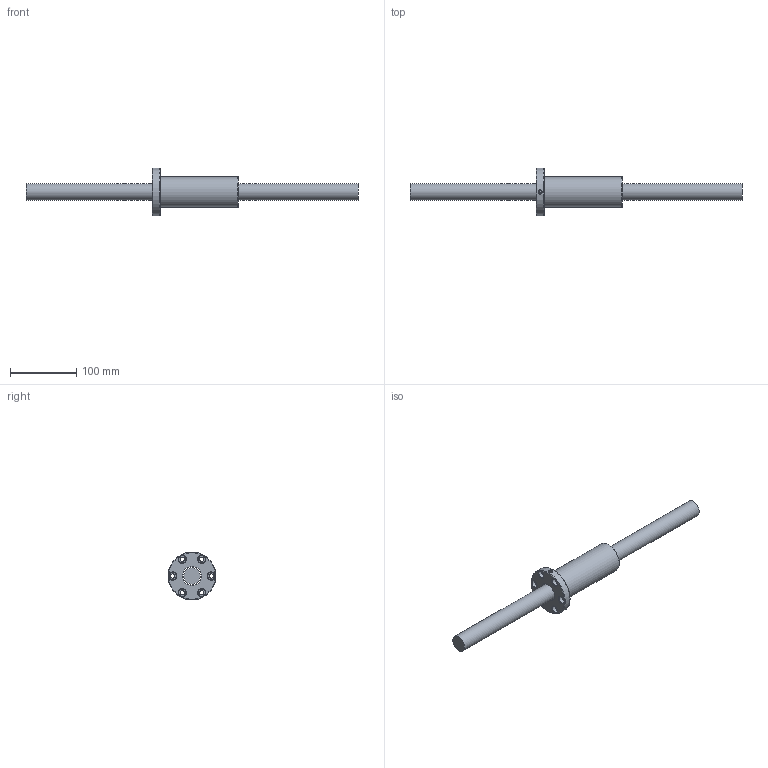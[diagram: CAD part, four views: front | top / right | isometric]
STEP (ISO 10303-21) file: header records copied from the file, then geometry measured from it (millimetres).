
FILE_DESCRIPTION (( 'STEP AP203' ), '1' );
FILE_NAME ('OFI02510N-4.step', '2024-05-17T03:23:18', ( '' ), ( '' ), 'SwSTEP 2.0', 'SolidWorks 2022', '' );
FILE_SCHEMA (( 'CONFIG_CONTROL_DESIGN' ));
Length unit declared in the file: millimetre
Products named in the file (1): OFI02510N-4
Bounding box: 500 x 72 x 72 mm (x, y, z)
Volume: 403301.5 mm3; surface area: 79952 mm2
Topology: 2 solids, 2 shells, 57 faces, 145 edges, 93 vertices
Faces by surface type: cylinder 24, cone 13, plane 12, bspline 5, torus 3
Full cylindrical faces by diameter (mm): 4 x1, 5 x6, 6.5 x6, 11 x6, 25 x1, 28.2 x1, 46 x1, 72 x1
Entity records: 3059 total; most frequent: CARTESIAN_POINT 2008, DIRECTION 206, ORIENTED_EDGE 148, EDGE_LOOP 102, AXIS2_PLACEMENT_3D 101, EDGE_CURVE 74, FACE_OUTER_BOUND 72, VERTEX_POINT 64
